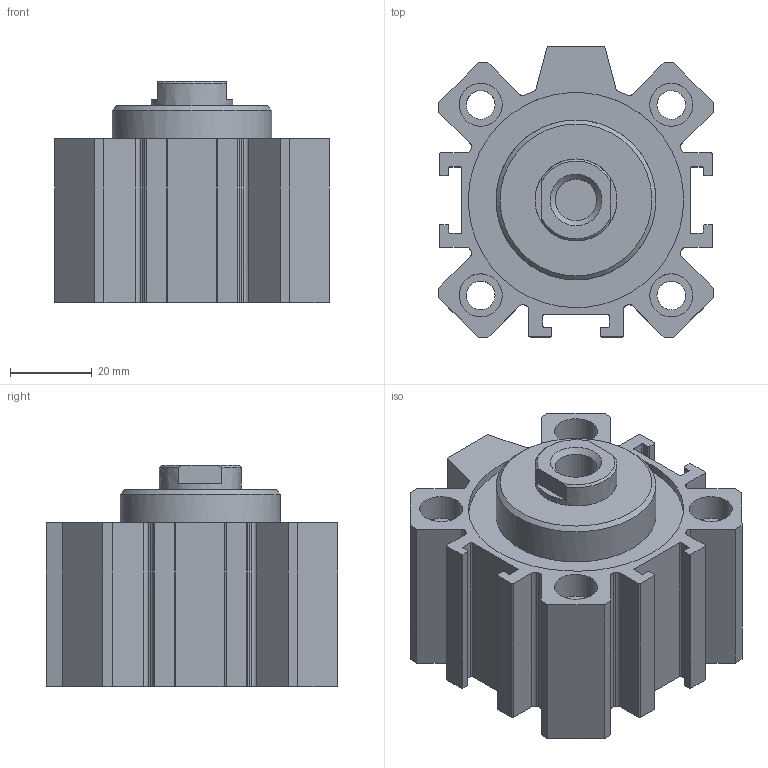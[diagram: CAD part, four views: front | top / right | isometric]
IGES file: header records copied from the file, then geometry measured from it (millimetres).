
Global section: file name: 1511_50_0000; native system: Autodesk Inventor 2014; preprocessor: unknown; author: A. Manieri; date: 20160824.133935; units: millimetre
Bounding box: 67 x 71 x 54 mm (x, y, z)
Volume: 144101.1 mm3; surface area: 43790.3 mm2
Topology: 2 solids, 2 shells, 165 faces, 443 edges, 300 vertices
Faces by surface type: bspline 165
